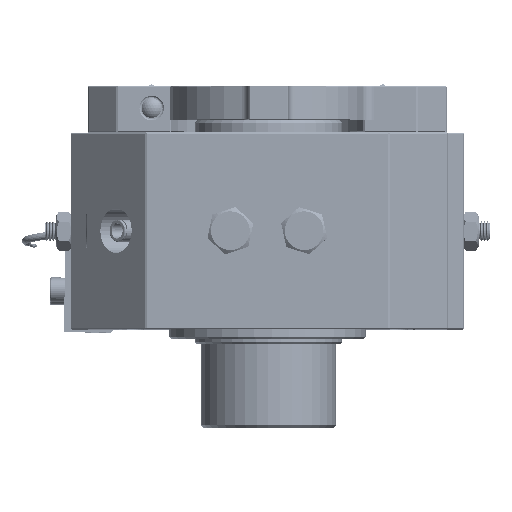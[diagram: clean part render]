
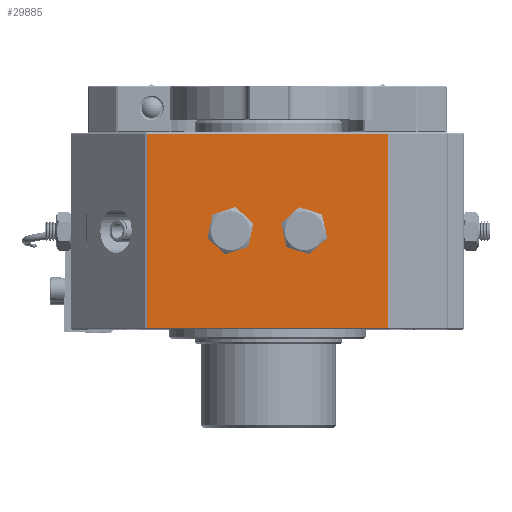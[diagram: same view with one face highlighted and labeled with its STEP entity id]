
A CAD part, top view. The second image highlights one B-rep face of the part: STEP entity #29885.
In plain terms, the highlighted planar face has unit normal (0, 0, 1) as drawn and (-1, 0, 0) by its records, which use the part's own axes.
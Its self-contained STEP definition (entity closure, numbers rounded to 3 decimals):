
#21005=CARTESIAN_POINT('',(-67.5,-49.0,-122.5));
#21006=VERTEX_POINT('',#21005);
#21015=CARTESIAN_POINT('',(-67.5,49.0,-122.5));
#21016=VERTEX_POINT('',#21015);
#21017=CARTESIAN_POINT('',(-67.5,-49.0,-122.5));
#21018=DIRECTION('',(0.0,1.0,0.0));
#21019=VECTOR('',#21018,98.0);
#21020=LINE('',#21017,#21019);
#21021=EDGE_CURVE('',#21006,#21016,#21020,.T.);
#22126=CARTESIAN_POINT('',(-67.5,-49.0,-43.5));
#22127=VERTEX_POINT('',#22126);
#22134=CARTESIAN_POINT('',(-67.5,-49.0,-43.5));
#22135=DIRECTION('',(0.0,0.0,-1.0));
#22136=VECTOR('',#22135,79.);
#22137=LINE('',#22134,#22136);
#22138=EDGE_CURVE('',#22127,#21006,#22137,.T.);
#24136=CARTESIAN_POINT('',(-67.5,49.0,-43.5));
#24137=VERTEX_POINT('',#24136);
#24144=CARTESIAN_POINT('',(-67.5,49.0,-43.5));
#24145=DIRECTION('',(0.0,-1.0,0.0));
#24146=VECTOR('',#24145,98.0);
#24147=LINE('',#24144,#24146);
#24148=EDGE_CURVE('',#24137,#22127,#24147,.T.);
#25508=CARTESIAN_POINT('',(-67.5,20.0,-83.0));
#25509=VERTEX_POINT('',#25508);
#25510=CARTESIAN_POINT('',(-67.5,15.0,-83.0));
#25511=DIRECTION('',(1.0,0.0,0.0));
#25512=DIRECTION('',(0.0,1.0,0.0));
#25513=AXIS2_PLACEMENT_3D('',#25510,#25511,#25512);
#25514=CIRCLE('',#25513,5.0);
#25515=EDGE_CURVE('',#25509,#25509,#25514,.T.);
#25556=CARTESIAN_POINT('',(-67.5,-10.0,-83.0));
#25557=VERTEX_POINT('',#25556);
#25558=CARTESIAN_POINT('',(-67.5,-15.0,-83.0));
#25559=DIRECTION('',(1.0,0.0,0.0));
#25560=DIRECTION('',(0.0,1.0,0.0));
#25561=AXIS2_PLACEMENT_3D('',#25558,#25559,#25560);
#25562=CIRCLE('',#25561,5.0);
#25563=EDGE_CURVE('',#25557,#25557,#25562,.T.);
#25704=CARTESIAN_POINT('',(-67.5,49.0,-122.5));
#25705=DIRECTION('',(0.0,0.0,1.0));
#25706=VECTOR('',#25705,79.);
#25707=LINE('',#25704,#25706);
#25708=EDGE_CURVE('',#21016,#24137,#25707,.T.);
#29868=CARTESIAN_POINT('',(-67.5,-80.0,-43.0));
#29869=DIRECTION('',(1.0,0.0,0.0));
#29870=DIRECTION('',(0.0,0.0,-1.0));
#29871=AXIS2_PLACEMENT_3D('',#29868,#29869,#29870);
#29872=PLANE('',#29871);
#29873=ORIENTED_EDGE('',*,*,#22138,.F.);
#29874=ORIENTED_EDGE('',*,*,#24148,.F.);
#29875=ORIENTED_EDGE('',*,*,#25708,.F.);
#29876=ORIENTED_EDGE('',*,*,#21021,.F.);
#29877=EDGE_LOOP('',(#29873,#29874,#29875,#29876));
#29878=FACE_OUTER_BOUND('',#29877,.T.);
#29879=ORIENTED_EDGE('',*,*,#25563,.T.);
#29880=EDGE_LOOP('',(#29879));
#29881=FACE_BOUND('',#29880,.T.);
#29882=ORIENTED_EDGE('',*,*,#25515,.T.);
#29883=EDGE_LOOP('',(#29882));
#29884=FACE_BOUND('',#29883,.T.);
#29885=ADVANCED_FACE('',(#29878,#29881,#29884),#29872,.F.);
